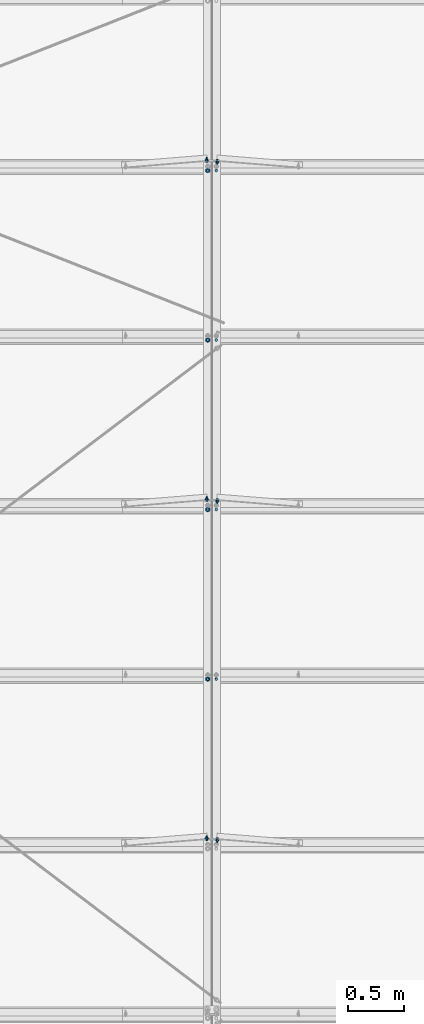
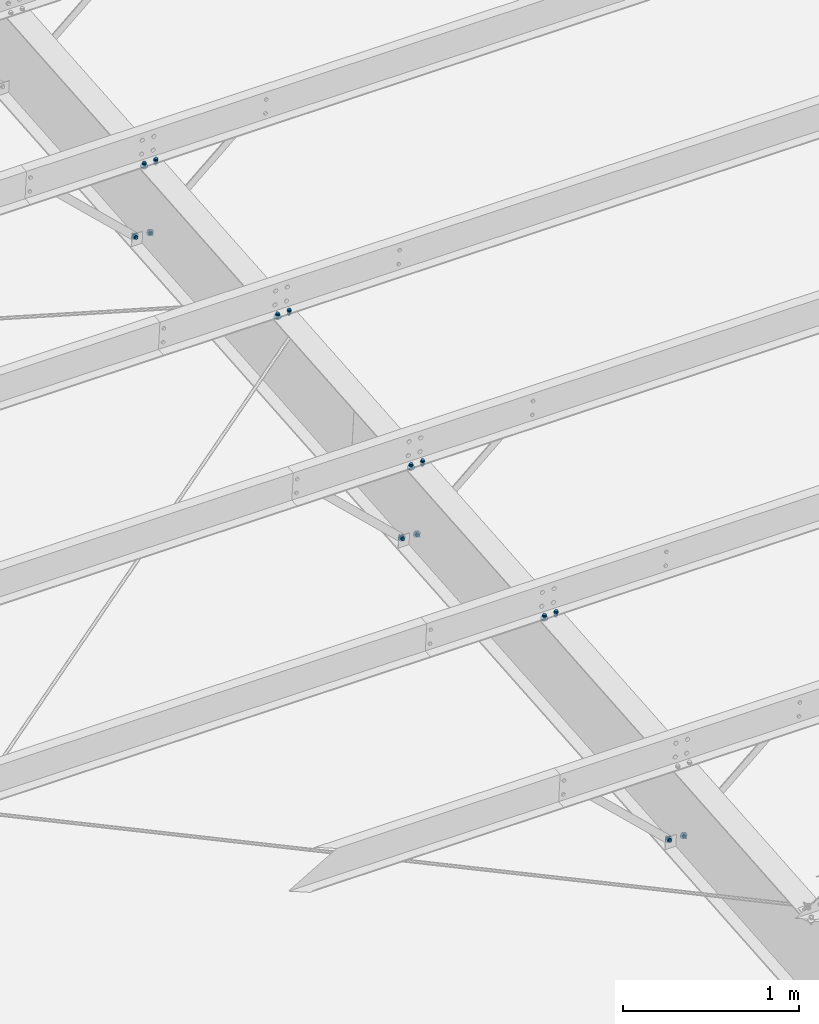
# One storey, part 132 of 185: 20 mechanical fasteners, 11 elements without a shape of their own.
"""IFC2X3 building model written with IfcOpenShell, lengths in millimetres."""

from ifc_helpers import new_model, si_unit, frame, origin_with_axes, origin_2d_with_axis, place, context, subcontext, project, spatial, polyline, circle, outline, extrude, source, transform, mapped, material, type_object, element, aggregate, save


model = new_model("IFC2X3")

# Units and contexts
model_context = context("Model", 3, precision=1e-05, world=origin_with_axes())
body_context = subcontext(model_context, "Body", "Model", "MODEL_VIEW")
ifc_project = project(units=[si_unit("LENGTHUNIT", "METRE", prefix="MILLI"), si_unit("AREAUNIT", "SQUARE_METRE"), si_unit("VOLUMEUNIT", "CUBIC_METRE"), si_unit("MASSUNIT", "GRAM", prefix="KILO"), si_unit("TIMEUNIT", "SECOND"), si_unit("PLANEANGLEUNIT", "RADIAN"), si_unit("SOLIDANGLEUNIT", "STERADIAN"), si_unit("THERMODYNAMICTEMPERATUREUNIT", "DEGREE_CELSIUS"), si_unit("LUMINOUSINTENSITYUNIT", "LUMEN")], contexts=[model_context])

# Site, building, storey
site_placement = place(None, origin_with_axes())
site = spatial("IfcSite", under=ifc_project, at=site_placement, Name="Undefined", CompositionType="ELEMENT")
building_placement = place(site_placement, origin_with_axes())
building = spatial("IfcBuilding", under=site, at=building_placement, Name="Undefined", CompositionType="ELEMENT")
storey_placement = place(building_placement, origin_with_axes())
storey = spatial("IfcBuildingStorey", under=building, at=storey_placement, Name="Undefined", CompositionType="ELEMENT", Elevation=0.0)

# Assembly, mechanical fastener
assembly_1_placement = place(storey_placement, origin_with_axes())
assembly_1 = element("IfcElementAssembly", 1, at=assembly_1_placement, inside=storey, Name="Steel Assembly", AssemblyPlace="NOTDEFINED", PredefinedType="RIGID_FRAME")
ifc_material_1 = material(Name="Undefined")
discrete_accessory_type = type_object("IfcDiscreteAccessoryType", Name="Bolt assembly")
shared_shape_1 = source(origin_with_axes(), body_context, "Body", "SweptSolid", [
    extrude(circle(Radius=7.14374971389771, at=origin_2d_with_axis()), frame((0.0, -1.59000001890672, 0.0), z_axis=(0.0, 1.0, 0.0), x_axis=(1.0, 0.0, 0.0)), (0.0, 0.0, 1.0), 1.7),
    extrude(outline(polyline([(10.9985221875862, 0.0), (5.4992610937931, 9.52499961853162), (-5.4992610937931, 9.52499961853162), (-10.9985221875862, 0.0), (-5.4992610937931, -9.52499961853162), (5.4992610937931, -9.52499961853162), (10.9985221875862, 0.0)])), frame((0.0, -15.0837496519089, 0.0), z_axis=(0.0, 1.0, 0.0), x_axis=(1.0, 0.0, 0.0)), (0.0, 0.0, 1.0), 9.5),
    extrude(circle(Radius=6.34999990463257, at=origin_2d_with_axis()), frame((0.0, -5.5587500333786, 0.0), z_axis=(0.0, 1.0, 0.0), x_axis=(1.0, 0.0, 0.0)), (0.0, 0.0, 1.0), 38.1),
    extrude(circle(Radius=13.4937496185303, at=origin_2d_with_axis()), frame((0.0, -5.5587500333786, 0.0), z_axis=(0.0, 1.0, 0.0), x_axis=(1.0, 0.0, 0.0)), (0.0, 0.0, 1.0), 4.0),
    extrude(circle(Radius=22.2250003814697, at=origin_2d_with_axis()), frame((0.0, 0.0, 0.0), z_axis=(0.0, 1.0, 0.0), x_axis=(1.0, 0.0, 0.0)), (0.0, 0.0, 1.0), 7.9),
    extrude(outline(polyline([(12.8316099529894, 0.0), (6.4158049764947, 11.1125001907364), (-6.4158049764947, 11.1125001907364), (-12.8316099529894, 0.0), (-6.4158049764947, -11.1125001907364), (6.4158049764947, -11.1125001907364), (12.8316099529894, 0.0)])), frame((0.0, 7.93750000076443, 0.0), z_axis=(0.0, 1.0, 0.0), x_axis=(1.0, 0.0, 0.0)), (0.0, 0.0, 1.0), 12.3),
])
mechanical_fastener_1_placement = place(assembly_1_placement, frame((14905.8744956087, 14242.609472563, 6520.52329388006), z_axis=(0.697745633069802, 0.0594892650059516, -0.713871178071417), x_axis=(0.716345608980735, -0.0579446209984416, 0.695335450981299)))
mechanical_fastener_1 = element("IfcMechanicalFastener", 2, at=mechanical_fastener_1_placement, type_object=discrete_accessory_type, material=ifc_material_1, Name="Bolt assembly", NominalDiameter=12.6999998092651, NominalLength=38.0999984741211, context=body_context, shape_type="MappedRepresentation", body=[
    mapped(shared_shape_1, transform((0.0, 0.0, 0.0))),
])
aggregate(assembly_1, [mechanical_fastener_1])

assembly_2_placement = place(storey_placement, origin_with_axes())
assembly_2 = element("IfcElementAssembly", 3, at=assembly_2_placement, inside=storey, Name="Steel Assembly", AssemblyPlace="NOTDEFINED", PredefinedType="RIGID_FRAME")
mechanical_fastener_2_placement = place(assembly_2_placement, frame((14905.8744956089, 11205.1380014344, 6267.40067128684), z_axis=(0.697745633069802, 0.0594892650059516, -0.713871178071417), x_axis=(0.716345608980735, -0.0579446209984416, 0.695335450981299)))
mechanical_fastener_2 = element("IfcMechanicalFastener", 4, at=mechanical_fastener_2_placement, type_object=discrete_accessory_type, material=ifc_material_1, Name="Bolt assembly", NominalDiameter=12.6999998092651, NominalLength=38.0999984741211, context=body_context, shape_type="MappedRepresentation", body=[
    mapped(shared_shape_1, transform((0.0, 0.0, 0.0))),
])
aggregate(assembly_2, [mechanical_fastener_2])

assembly_3_placement = place(storey_placement, origin_with_axes())
assembly_3 = element("IfcElementAssembly", 5, at=assembly_3_placement, inside=storey, Name="Steel Assembly", AssemblyPlace="NOTDEFINED", PredefinedType="RIGID_FRAME")
mechanical_fastener_3_placement = place(assembly_3_placement, frame((14905.8744956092, 8167.66653030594, 6014.27804869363), z_axis=(0.697745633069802, 0.0594892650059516, -0.713871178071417), x_axis=(0.716345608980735, -0.0579446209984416, 0.695335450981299)))
mechanical_fastener_3 = element("IfcMechanicalFastener", 6, at=mechanical_fastener_3_placement, type_object=discrete_accessory_type, material=ifc_material_1, Name="Bolt assembly", NominalDiameter=12.6999998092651, NominalLength=38.0999984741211, context=body_context, shape_type="MappedRepresentation", body=[
    mapped(shared_shape_1, transform((0.0, 0.0, 0.0))),
])
aggregate(assembly_3, [mechanical_fastener_3])

assembly_4_placement = place(storey_placement, origin_with_axes())
assembly_4 = element("IfcElementAssembly", 7, at=assembly_4_placement, inside=storey, Name="Steel Assembly", AssemblyPlace="NOTDEFINED", PredefinedType="RIGID_FRAME")
shared_shape_2 = source(origin_with_axes(), body_context, "Body", "SweptSolid", [
    extrude(circle(Radius=7.14374971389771, at=origin_2d_with_axis()), frame((0.0, 0.0, 0.0), z_axis=(0.0, 1.0, 0.0), x_axis=(1.0, 0.0, 0.0)), (0.0, 0.0, 1.0), 1.7),
    extrude(outline(polyline([(10.9985221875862, 0.0), (5.4992610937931, 9.52499961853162), (-5.4992610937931, 9.52499961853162), (-10.9985221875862, 0.0), (-5.4992610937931, -9.52499961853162), (5.4992610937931, -9.52499961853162), (10.9985221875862, 0.0)])), frame((0.0, -13.4937496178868, 0.0), z_axis=(0.0, 1.0, 0.0), x_axis=(1.0, 0.0, 0.0)), (0.0, 0.0, 1.0), 9.5),
    extrude(circle(Radius=6.34999990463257, at=origin_2d_with_axis()), frame((0.0, -3.96874999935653, 0.0), z_axis=(0.0, 1.0, 0.0), x_axis=(1.0, 0.0, 0.0)), (0.0, 0.0, 1.0), 38.1),
    extrude(circle(Radius=13.4937496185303, at=origin_2d_with_axis()), frame((0.0, -3.96874999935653, 0.0), z_axis=(0.0, 1.0, 0.0), x_axis=(1.0, 0.0, 0.0)), (0.0, 0.0, 1.0), 4.0),
    extrude(circle(Radius=22.2250003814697, at=origin_2d_with_axis()), frame((0.0, 1.5900000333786, 0.0), z_axis=(0.0, 1.0, 0.0), x_axis=(1.0, 0.0, 0.0)), (0.0, 0.0, 1.0), 7.9),
    extrude(outline(polyline([(12.8316099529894, 0.0), (6.4158049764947, 11.1125001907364), (-6.4158049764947, 11.1125001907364), (-12.8316099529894, 0.0), (-6.4158049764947, -11.1125001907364), (6.4158049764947, -11.1125001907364), (12.8316099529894, 0.0)])), frame((0.0, 9.5275000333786, 0.0), z_axis=(0.0, 1.0, 0.0), x_axis=(1.0, 0.0, 0.0)), (0.0, 0.0, 1.0), 12.3),
])
mechanical_fastener_4_placement = place(assembly_4_placement, frame((14812.1255043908, 8167.66653030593, 6014.27804869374), z_axis=(-0.697745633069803, 0.0594892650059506, -0.713871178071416), x_axis=(-0.716345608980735, -0.0579446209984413, 0.6953354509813)))
mechanical_fastener_4 = element("IfcMechanicalFastener", 8, at=mechanical_fastener_4_placement, type_object=discrete_accessory_type, material=ifc_material_1, Name="Bolt assembly", NominalDiameter=12.6999998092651, NominalLength=38.0999984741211, context=body_context, shape_type="MappedRepresentation", body=[
    mapped(shared_shape_2, transform((0.0, 0.0, 0.0))),
])
aggregate(assembly_4, [mechanical_fastener_4])

assembly_5_placement = place(storey_placement, origin_with_axes())
assembly_5 = element("IfcElementAssembly", 9, at=assembly_5_placement, inside=storey, Name="Steel Assembly", AssemblyPlace="NOTDEFINED", PredefinedType="RIGID_FRAME")
mechanical_fastener_5_placement = place(assembly_5_placement, frame((14812.1255043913, 14242.609472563, 6520.52329388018), z_axis=(-0.697745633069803, 0.0594892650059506, -0.713871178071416), x_axis=(-0.716345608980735, -0.0579446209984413, 0.6953354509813)))
mechanical_fastener_5 = element("IfcMechanicalFastener", 10, at=mechanical_fastener_5_placement, type_object=discrete_accessory_type, material=ifc_material_1, Name="Bolt assembly", NominalDiameter=12.6999998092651, NominalLength=38.0999984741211, context=body_context, shape_type="MappedRepresentation", body=[
    mapped(shared_shape_2, transform((0.0, 0.0, 0.0))),
])
aggregate(assembly_5, [mechanical_fastener_5])

assembly_6_placement = place(storey_placement, origin_with_axes())
assembly_6 = element("IfcElementAssembly", 11, at=assembly_6_placement, inside=storey, Name="Steel Assembly", AssemblyPlace="NOTDEFINED", PredefinedType="RIGID_FRAME")
mechanical_fastener_6_placement = place(assembly_6_placement, frame((14812.1255043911, 11205.1380014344, 6267.40067128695), z_axis=(-0.697745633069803, 0.0594892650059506, -0.713871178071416), x_axis=(-0.716345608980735, -0.0579446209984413, 0.6953354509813)))
mechanical_fastener_6 = element("IfcMechanicalFastener", 12, at=mechanical_fastener_6_placement, type_object=discrete_accessory_type, material=ifc_material_1, Name="Bolt assembly", NominalDiameter=12.6999998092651, NominalLength=38.0999984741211, context=body_context, shape_type="MappedRepresentation", body=[
    mapped(shared_shape_2, transform((0.0, 0.0, 0.0))),
])
aggregate(assembly_6, [mechanical_fastener_6])

# Assembly, mechanical fasteners
assembly_7_placement = place(storey_placement, origin_with_axes())
assembly_7 = element("IfcElementAssembly", 13, at=assembly_7_placement, inside=storey, Name="Steel Assembly", AssemblyPlace="NOTDEFINED", PredefinedType="RIGID_FRAME")
ifc_material_2 = material(Name="7990")
shared_shape_3 = source(origin_with_axes(), body_context, "Body", "SweptSolid", [
    extrude(circle(Radius=7.14374971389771, at=origin_2d_with_axis()), frame((0.0, -3.41600000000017, 0.0), z_axis=(0.0, 1.0, 0.0), x_axis=(1.0, 0.0, 0.0)), (0.0, 0.0, 1.0), 3.5),
    extrude(circle(Radius=11.4299998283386, at=origin_2d_with_axis()), frame((0.0, 0.0, 0.0), z_axis=(0.0, 1.0, 0.0), x_axis=(1.0, 0.0, 0.0)), (0.0, 0.0, 1.0), 4.2),
    extrude(outline(polyline([(12.171698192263, 0.0), (6.08584909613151, 10.5409998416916), (-6.08584909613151, 10.5409998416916), (-12.171698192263, 0.0), (-6.08584909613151, -10.5409998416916), (6.08584909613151, -10.5409998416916), (12.171698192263, 0.0)])), frame((0.0, 4.1909999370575, 0.0), z_axis=(0.0, 1.0, 0.0), x_axis=(1.0, 0.0, 0.0)), (0.0, 0.0, 1.0), 8.4),
])
mechanical_fastener_7_placement = place(assembly_7_placement, frame((14812.84185, 14242.6674171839, 6519.82795842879), z_axis=(0.921635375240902, 0.0322263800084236, -0.386716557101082), x_axis=(-0.388056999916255, 0.0765376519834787, -0.9184518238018)))
mechanical_fastener_7 = element("IfcMechanicalFastener", 14, at=mechanical_fastener_7_placement, type_object=discrete_accessory_type, material=ifc_material_2, Name="Bolt assembly", NominalDiameter=12.6999998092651, NominalLength=38.0999984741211, context=body_context, shape_type="MappedRepresentation", body=[
    mapped(shared_shape_3, transform((0.0, 0.0, 0.0))),
])
mechanical_fastener_8_placement = place(assembly_7_placement, frame((14812.84185, 11205.1959460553, 6266.70533583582), z_axis=(0.921635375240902, 0.0322263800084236, -0.386716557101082), x_axis=(-0.388056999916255, 0.0765376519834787, -0.9184518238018)))
mechanical_fastener_8 = element("IfcMechanicalFastener", 15, at=mechanical_fastener_8_placement, type_object=discrete_accessory_type, material=ifc_material_2, Name="Bolt assembly", NominalDiameter=12.6999998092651, NominalLength=38.0999984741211, context=body_context, shape_type="MappedRepresentation", body=[
    mapped(shared_shape_3, transform((0.0, 0.0, 0.0))),
])
mechanical_fastener_9_placement = place(assembly_7_placement, frame((14812.84185, 8167.72447492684, 6013.58271324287), z_axis=(0.921635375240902, 0.0322263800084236, -0.386716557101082), x_axis=(-0.388056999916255, 0.0765376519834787, -0.9184518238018)))
mechanical_fastener_9 = element("IfcMechanicalFastener", 16, at=mechanical_fastener_9_placement, type_object=discrete_accessory_type, material=ifc_material_2, Name="Bolt assembly", NominalDiameter=12.6999998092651, NominalLength=38.0999984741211, context=body_context, shape_type="MappedRepresentation", body=[
    mapped(shared_shape_3, transform((0.0, 0.0, 0.0))),
])
shared_shape_4 = source(origin_with_axes(), body_context, "Body", "SweptSolid", [
    extrude(circle(Radius=7.14374971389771, at=origin_2d_with_axis()), frame((0.0, 0.0, 0.0), z_axis=(0.0, 1.0, 0.0), x_axis=(1.0, 0.0, 0.0)), (0.0, 0.0, 1.0), 3.5),
    extrude(circle(Radius=11.4299998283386, at=origin_2d_with_axis()), frame((0.0, 3.41600000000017, 0.0), z_axis=(0.0, 1.0, 0.0), x_axis=(1.0, 0.0, 0.0)), (0.0, 0.0, 1.0), 4.2),
    extrude(outline(polyline([(12.171698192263, 0.0), (6.08584909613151, 10.5409998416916), (-6.08584909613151, 10.5409998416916), (-12.171698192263, 0.0), (-6.08584909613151, -10.5409998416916), (6.08584909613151, -10.5409998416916), (12.171698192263, 0.0)])), frame((0.0, 7.60699993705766, 0.0), z_axis=(0.0, 1.0, 0.0), x_axis=(1.0, 0.0, 0.0)), (0.0, 0.0, 1.0), 8.4),
])
mechanical_fastener_10_placement = place(assembly_7_placement, frame((14905.15815, 14242.6674171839, 6519.82795842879), z_axis=(-0.921635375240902, 0.0322263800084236, -0.386716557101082), x_axis=(0.388056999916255, 0.0765376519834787, -0.9184518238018)))
mechanical_fastener_10 = element("IfcMechanicalFastener", 17, at=mechanical_fastener_10_placement, type_object=discrete_accessory_type, material=ifc_material_2, Name="Bolt assembly", NominalDiameter=12.6999998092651, NominalLength=38.0999984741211, context=body_context, shape_type="MappedRepresentation", body=[
    mapped(shared_shape_4, transform((0.0, 0.0, 0.0))),
])
mechanical_fastener_11_placement = place(assembly_7_placement, frame((14905.15815, 11205.1959460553, 6266.70533583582), z_axis=(-0.921635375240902, 0.0322263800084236, -0.386716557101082), x_axis=(0.388056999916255, 0.0765376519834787, -0.9184518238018)))
mechanical_fastener_11 = element("IfcMechanicalFastener", 18, at=mechanical_fastener_11_placement, type_object=discrete_accessory_type, material=ifc_material_2, Name="Bolt assembly", NominalDiameter=12.6999998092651, NominalLength=38.0999984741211, context=body_context, shape_type="MappedRepresentation", body=[
    mapped(shared_shape_4, transform((0.0, 0.0, 0.0))),
])
mechanical_fastener_12_placement = place(assembly_7_placement, frame((14905.15815, 8167.72447492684, 6013.58271324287), z_axis=(-0.921635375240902, 0.0322263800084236, -0.386716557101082), x_axis=(0.388056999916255, 0.0765376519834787, -0.9184518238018)))
mechanical_fastener_12 = element("IfcMechanicalFastener", 19, at=mechanical_fastener_12_placement, type_object=discrete_accessory_type, material=ifc_material_2, Name="Bolt assembly", NominalDiameter=12.6999998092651, NominalLength=38.0999984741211, context=body_context, shape_type="MappedRepresentation", body=[
    mapped(shared_shape_4, transform((0.0, 0.0, 0.0))),
])
aggregate(assembly_7, [mechanical_fastener_10, mechanical_fastener_7, mechanical_fastener_11, mechanical_fastener_8, mechanical_fastener_12, mechanical_fastener_9])

# Assembly, mechanical fastener
assembly_8_placement = place(storey_placement, origin_with_axes())
assembly_8 = element("IfcElementAssembly", 20, at=assembly_8_placement, inside=storey, Name="Steel Assembly", AssemblyPlace="NOTDEFINED", PredefinedType="RIGID_FRAME")
shared_shape_5 = source(origin_with_axes(), body_context, "Body", "SweptSolid", [
    extrude(circle(Radius=7.14374971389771, at=origin_2d_with_axis()), frame((0.0, -0.0238014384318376, 0.0), z_axis=(0.0, 1.0, 0.0), x_axis=(1.0, 0.0, 0.0)), (0.0, 0.0, 1.0), 8.0),
    extrude(circle(Radius=7.14374971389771, at=origin_2d_with_axis()), frame((0.0, -3.08000006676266, 0.0), z_axis=(0.0, 1.0, 0.0), x_axis=(1.0, 0.0, 0.0)), (0.0, 0.0, 1.0), 3.2),
    extrude(circle(Radius=7.14374971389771, at=origin_2d_with_axis()), frame((0.0, -3.08000006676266, 0.0), z_axis=(0.0, 1.0, 0.0), x_axis=(1.0, 0.0, 0.0)), (0.0, 0.0, 1.0), 3.2),
    extrude(outline(polyline([(10.9985221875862, 0.0), (5.4992610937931, 9.52499961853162), (-5.4992610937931, 9.52499961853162), (-10.9985221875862, 0.0), (-5.4992610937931, -9.52499961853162), (5.4992610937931, -9.52499961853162), (10.9985221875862, 0.0)])), frame((0.0, -16.6737496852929, 0.0), z_axis=(0.0, 1.0, 0.0), x_axis=(1.0, 0.0, 0.0)), (0.0, 0.0, 1.0), 9.5),
    extrude(circle(Radius=6.34999990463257, at=origin_2d_with_axis()), frame((0.0, -7.14875006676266, 0.0), z_axis=(0.0, 1.0, 0.0), x_axis=(1.0, 0.0, 0.0)), (0.0, 0.0, 1.0), 38.1),
    extrude(circle(Radius=13.4937496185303, at=origin_2d_with_axis()), frame((0.0, -7.14875006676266, 0.0), z_axis=(0.0, 1.0, 0.0), x_axis=(1.0, 0.0, 0.0)), (0.0, 0.0, 1.0), 4.0),
    extrude(circle(Radius=22.2250003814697, at=origin_2d_with_axis()), frame((0.0, 7.95019856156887, 0.0), z_axis=(0.0, 1.0, 0.0), x_axis=(1.0, 0.0, 0.0)), (0.0, 0.0, 1.0), 7.9),
    extrude(outline(polyline([(12.8316099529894, 0.0), (6.4158049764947, 11.1125001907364), (-6.4158049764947, 11.1125001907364), (-12.8316099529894, 0.0), (-6.4158049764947, -11.1125001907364), (6.4158049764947, -11.1125001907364), (12.8316099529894, 0.0)])), frame((0.0, 15.8876985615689, 0.0), z_axis=(0.0, 1.0, 0.0), x_axis=(1.0, 0.0, 0.0)), (0.0, 0.0, 1.0), 12.3),
])
mechanical_fastener_13_placement = place(assembly_8_placement, frame((14820.9, 14158.4239898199, 7071.96433334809), z_axis=(1.0, 0.0, 0.0), x_axis=(0.0, -0.996545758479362, -0.0830454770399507)))
mechanical_fastener_13 = element("IfcMechanicalFastener", 21, at=mechanical_fastener_13_placement, type_object=discrete_accessory_type, material=ifc_material_1, Name="Bolt assembly", NominalDiameter=12.6999998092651, NominalLength=38.0999984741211, context=body_context, shape_type="MappedRepresentation", body=[
    mapped(shared_shape_5, transform((0.0, 0.0, 0.0))),
])

assembly_9_placement = place(storey_placement, origin_with_axes())
assembly_9 = element("IfcElementAssembly", 22, at=assembly_9_placement, inside=storey, Name="Steel Assembly", AssemblyPlace="NOTDEFINED", PredefinedType="RIGID_FRAME")
mechanical_fastener_14_placement = place(assembly_9_placement, frame((14820.9, 12639.6882542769, 6945.40302179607), z_axis=(1.0, 0.0, 0.0), x_axis=(0.0, -0.996545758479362, -0.0830454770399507)))
mechanical_fastener_14 = element("IfcMechanicalFastener", 23, at=mechanical_fastener_14_placement, type_object=discrete_accessory_type, material=ifc_material_1, Name="Bolt assembly", NominalDiameter=12.6999998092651, NominalLength=38.0999984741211, context=body_context, shape_type="MappedRepresentation", body=[
    mapped(shared_shape_5, transform((0.0, 0.0, 0.0))),
])

assembly_10_placement = place(storey_placement, origin_with_axes())
assembly_10 = element("IfcElementAssembly", 24, at=assembly_10_placement, inside=storey, Name="Steel Assembly", AssemblyPlace="NOTDEFINED", PredefinedType="RIGID_FRAME")
mechanical_fastener_15_placement = place(assembly_10_placement, frame((14820.9, 11120.9525187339, 6818.84171024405), z_axis=(1.0, 0.0, 0.0), x_axis=(0.0, -0.996545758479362, -0.0830454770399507)))
mechanical_fastener_15 = element("IfcMechanicalFastener", 25, at=mechanical_fastener_15_placement, type_object=discrete_accessory_type, material=ifc_material_1, Name="Bolt assembly", NominalDiameter=12.6999998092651, NominalLength=38.0999984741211, context=body_context, shape_type="MappedRepresentation", body=[
    mapped(shared_shape_5, transform((0.0, 0.0, 0.0))),
])

assembly_11_placement = place(storey_placement, origin_with_axes())
assembly_11 = element("IfcElementAssembly", 26, at=assembly_11_placement, inside=storey, Name="Steel Assembly", AssemblyPlace="NOTDEFINED", PredefinedType="RIGID_FRAME")
mechanical_fastener_16_placement = place(assembly_11_placement, frame((14820.9, 9602.21678319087, 6692.28039869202), z_axis=(1.0, 0.0, 0.0), x_axis=(0.0, -0.996545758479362, -0.0830454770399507)))
mechanical_fastener_16 = element("IfcMechanicalFastener", 27, at=mechanical_fastener_16_placement, type_object=discrete_accessory_type, material=ifc_material_1, Name="Bolt assembly", NominalDiameter=12.6999998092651, NominalLength=38.0999984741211, context=body_context, shape_type="MappedRepresentation", body=[
    mapped(shared_shape_5, transform((0.0, 0.0, 0.0))),
])

# Mechanical fastener
shared_shape_6 = source(origin_with_axes(), body_context, "Body", "SweptSolid", [
    extrude(circle(Radius=7.14374971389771, at=origin_2d_with_axis()), frame((0.0, -0.0238014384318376, 0.0), z_axis=(0.0, 1.0, 0.0), x_axis=(1.0, 0.0, 0.0)), (0.0, 0.0, 1.0), 8.0),
    extrude(circle(Radius=7.14374971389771, at=origin_2d_with_axis()), frame((0.0, -3.08000006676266, 0.0), z_axis=(0.0, 1.0, 0.0), x_axis=(1.0, 0.0, 0.0)), (0.0, 0.0, 1.0), 3.2),
    extrude(circle(Radius=7.14374971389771, at=origin_2d_with_axis()), frame((0.0, -3.08000006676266, 0.0), z_axis=(0.0, 1.0, 0.0), x_axis=(1.0, 0.0, 0.0)), (0.0, 0.0, 1.0), 3.2),
    extrude(outline(polyline([(10.9985221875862, 0.0), (5.4992610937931, 9.52499961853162), (-5.4992610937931, 9.52499961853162), (-10.9985221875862, 0.0), (-5.4992610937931, -9.52499961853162), (5.4992610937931, -9.52499961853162), (10.9985221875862, 0.0)])), frame((0.0, -16.6737496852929, 0.0), z_axis=(0.0, 1.0, 0.0), x_axis=(1.0, 0.0, 0.0)), (0.0, 0.0, 1.0), 9.5),
    extrude(circle(Radius=6.34999990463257, at=origin_2d_with_axis()), frame((0.0, -7.14875006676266, 0.0), z_axis=(0.0, 1.0, 0.0), x_axis=(1.0, 0.0, 0.0)), (0.0, 0.0, 1.0), 38.1),
    extrude(circle(Radius=13.4937496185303, at=origin_2d_with_axis()), frame((0.0, -7.14875006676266, 0.0), z_axis=(0.0, 1.0, 0.0), x_axis=(1.0, 0.0, 0.0)), (0.0, 0.0, 1.0), 4.0),
    extrude(outline(polyline([(12.8316099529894, 0.0), (6.4158049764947, 11.1125001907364), (-6.4158049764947, 11.1125001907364), (-12.8316099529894, 0.0), (-6.4158049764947, -11.1125001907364), (6.4158049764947, -11.1125001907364), (12.8316099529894, 0.0)])), frame((0.0, 7.95019856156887, 0.0), z_axis=(0.0, 1.0, 0.0), x_axis=(1.0, 0.0, 0.0)), (0.0, 0.0, 1.0), 12.3),
])
mechanical_fastener_17_placement = place(assembly_8_placement, frame((14897.1, 14158.4239898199, 7071.96433334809), z_axis=(1.0, 0.0, 0.0), x_axis=(0.0, -0.996545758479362, -0.0830454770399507)))
mechanical_fastener_17 = element("IfcMechanicalFastener", 28, at=mechanical_fastener_17_placement, type_object=discrete_accessory_type, material=ifc_material_1, Name="Bolt assembly", NominalDiameter=12.6999998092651, NominalLength=38.0999984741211, context=body_context, shape_type="MappedRepresentation", body=[
    mapped(shared_shape_6, transform((0.0, 0.0, 0.0))),
])

aggregate(assembly_8, [mechanical_fastener_13, mechanical_fastener_17])

mechanical_fastener_18_placement = place(assembly_9_placement, frame((14897.1, 12639.6882542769, 6945.40302179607), z_axis=(1.0, 0.0, 0.0), x_axis=(0.0, -0.996545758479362, -0.0830454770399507)))
mechanical_fastener_18 = element("IfcMechanicalFastener", 29, at=mechanical_fastener_18_placement, type_object=discrete_accessory_type, material=ifc_material_1, Name="Bolt assembly", NominalDiameter=12.6999998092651, NominalLength=38.0999984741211, context=body_context, shape_type="MappedRepresentation", body=[
    mapped(shared_shape_6, transform((0.0, 0.0, 0.0))),
])

aggregate(assembly_9, [mechanical_fastener_14, mechanical_fastener_18])

mechanical_fastener_19_placement = place(assembly_10_placement, frame((14897.1, 11120.9525187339, 6818.84171024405), z_axis=(1.0, 0.0, 0.0), x_axis=(0.0, -0.996545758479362, -0.0830454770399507)))
mechanical_fastener_19 = element("IfcMechanicalFastener", 30, at=mechanical_fastener_19_placement, type_object=discrete_accessory_type, material=ifc_material_1, Name="Bolt assembly", NominalDiameter=12.6999998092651, NominalLength=38.0999984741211, context=body_context, shape_type="MappedRepresentation", body=[
    mapped(shared_shape_6, transform((0.0, 0.0, 0.0))),
])

aggregate(assembly_10, [mechanical_fastener_15, mechanical_fastener_19])

mechanical_fastener_20_placement = place(assembly_11_placement, frame((14897.1, 9602.21678319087, 6692.28039869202), z_axis=(1.0, 0.0, 0.0), x_axis=(0.0, -0.996545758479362, -0.0830454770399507)))
mechanical_fastener_20 = element("IfcMechanicalFastener", 31, at=mechanical_fastener_20_placement, type_object=discrete_accessory_type, material=ifc_material_1, Name="Bolt assembly", NominalDiameter=12.6999998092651, NominalLength=38.0999984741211, context=body_context, shape_type="MappedRepresentation", body=[
    mapped(shared_shape_6, transform((0.0, 0.0, 0.0))),
])

aggregate(assembly_11, [mechanical_fastener_16, mechanical_fastener_20])

save(model, "model.ifc")
